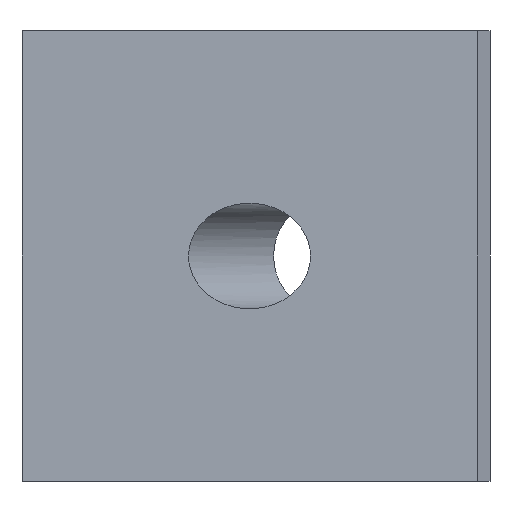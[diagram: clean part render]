
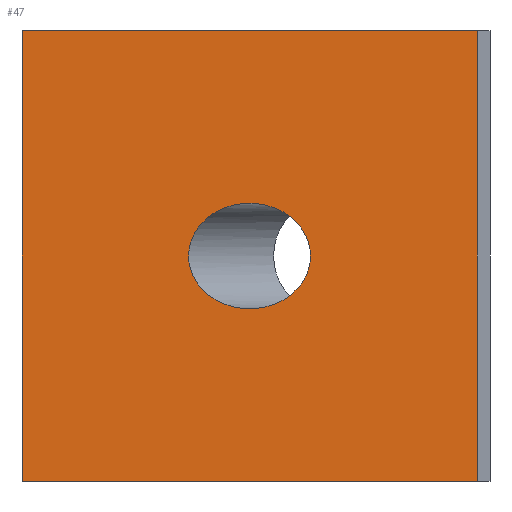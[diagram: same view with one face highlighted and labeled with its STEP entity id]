
A CAD part, front view. The second image highlights one B-rep face of the part: STEP entity #47.
In plain terms, the highlighted planar face has unit normal (0, -1, 0).
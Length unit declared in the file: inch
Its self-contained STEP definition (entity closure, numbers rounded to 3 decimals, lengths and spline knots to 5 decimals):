
#7 = CARTESIAN_POINT ( 'NONE',  ( 4.04145, 0., -4. ) ) ;
#10 = EDGE_CURVE ( 'NONE', #26, #186, #31, .T. ) ;
#12 =( BOUNDED_CURVE ( )  B_SPLINE_CURVE ( 3, ( #19, #23, #75, #42, #43, #108, #196 ),
 .UNSPECIFIED., .T., .F. ) 
 B_SPLINE_CURVE_WITH_KNOTS ( ( 4, 3, 4 ),
 ( 0., 3.14159, 6.28319 ),
 .UNSPECIFIED. ) 
 CURVE ( )  GEOMETRIC_REPRESENTATION_ITEM ( )  RATIONAL_B_SPLINE_CURVE ( ( 1., 0.333, 0.333, 1., 0.333, 0.333, 1. ) ) 
 REPRESENTATION_ITEM ( '' )  );
#14 = CARTESIAN_POINT ( 'NONE',  ( 0., 0., -4. ) ) ;
#16 = VERTEX_POINT ( 'NONE', #229 ) ;
#19 = CARTESIAN_POINT ( 'NONE',  ( 2.56199, 0., -2. ) ) ;
#20 = VERTEX_POINT ( 'NONE', #167 ) ;
#23 = CARTESIAN_POINT ( 'NONE',  ( 2.56199, 0., -1.0625 ) ) ;
#24 = VERTEX_POINT ( 'NONE', #37 ) ;
#26 = VERTEX_POINT ( 'NONE', #213 ) ;
#27 = ORIENTED_EDGE ( 'NONE', *, *, #222, .F. ) ;
#31 = LINE ( 'NONE', #14, #73 ) ;
#37 = CARTESIAN_POINT ( 'NONE',  ( 0., 0., 0. ) ) ;
#39 = CARTESIAN_POINT ( 'NONE',  ( 4.04145, 0., -4. ) ) ;
#42 = CARTESIAN_POINT ( 'NONE',  ( 1.47946, 0., -2. ) ) ;
#43 = CARTESIAN_POINT ( 'NONE',  ( 1.47946, 0., -2.9375 ) ) ;
#47 = ADVANCED_FACE ( 'NONE', ( #51, #82 ), #227, .T. ) ;
#50 = EDGE_LOOP ( 'NONE', ( #119 ) ) ;
#51 = FACE_BOUND ( 'NONE', #50, .T. ) ;
#53 = LINE ( 'NONE', #97, #134 ) ;
#55 = CARTESIAN_POINT ( 'NONE',  ( 0., 0., -4. ) ) ;
#60 = EDGE_CURVE ( 'NONE', #26, #24, #53, .T. ) ;
#68 = ORIENTED_EDGE ( 'NONE', *, *, #206, .T. ) ;
#70 = DIRECTION ( 'NONE',  ( 0., 0., -1. ) ) ;
#73 = VECTOR ( 'NONE', #154, 39.37008 ) ;
#75 = CARTESIAN_POINT ( 'NONE',  ( 1.47946, 0., -1.0625 ) ) ;
#82 = FACE_OUTER_BOUND ( 'NONE', #112, .T. ) ;
#97 = CARTESIAN_POINT ( 'NONE',  ( 0., 0., -4. ) ) ;
#98 = ORIENTED_EDGE ( 'NONE', *, *, #10, .T. ) ;
#104 = DIRECTION ( 'NONE',  ( 0., 0., 1. ) ) ;
#107 = VECTOR ( 'NONE', #104, 39.37008 ) ;
#108 = CARTESIAN_POINT ( 'NONE',  ( 2.56199, 0., -2.9375 ) ) ;
#109 = EDGE_CURVE ( 'NONE', #20, #20, #12, .T. ) ;
#112 = EDGE_LOOP ( 'NONE', ( #27, #191, #98, #68 ) ) ;
#119 = ORIENTED_EDGE ( 'NONE', *, *, #109, .F. ) ;
#127 = AXIS2_PLACEMENT_3D ( 'NONE', #55, #151, #70 ) ;
#134 = VECTOR ( 'NONE', #175, 39.37008 ) ;
#143 = LINE ( 'NONE', #162, #166 ) ;
#151 = DIRECTION ( 'NONE',  ( 0., -1., 0. ) ) ;
#154 = DIRECTION ( 'NONE',  ( 1., 0., 0. ) ) ;
#162 = CARTESIAN_POINT ( 'NONE',  ( 0., 0., 0. ) ) ;
#166 = VECTOR ( 'NONE', #180, 39.37008 ) ;
#167 = CARTESIAN_POINT ( 'NONE',  ( 2.56199, 0., -2. ) ) ;
#175 = DIRECTION ( 'NONE',  ( 0., 0., 1. ) ) ;
#180 = DIRECTION ( 'NONE',  ( 1., 0., 0. ) ) ;
#186 = VERTEX_POINT ( 'NONE', #7 ) ;
#191 = ORIENTED_EDGE ( 'NONE', *, *, #60, .F. ) ;
#195 = LINE ( 'NONE', #39, #107 ) ;
#196 = CARTESIAN_POINT ( 'NONE',  ( 2.56199, 0., -2. ) ) ;
#206 = EDGE_CURVE ( 'NONE', #186, #16, #195, .T. ) ;
#213 = CARTESIAN_POINT ( 'NONE',  ( 0., 0., -4. ) ) ;
#222 = EDGE_CURVE ( 'NONE', #24, #16, #143, .T. ) ;
#227 = PLANE ( 'NONE',  #127 ) ;
#229 = CARTESIAN_POINT ( 'NONE',  ( 4.04145, 0., 0. ) ) ;
